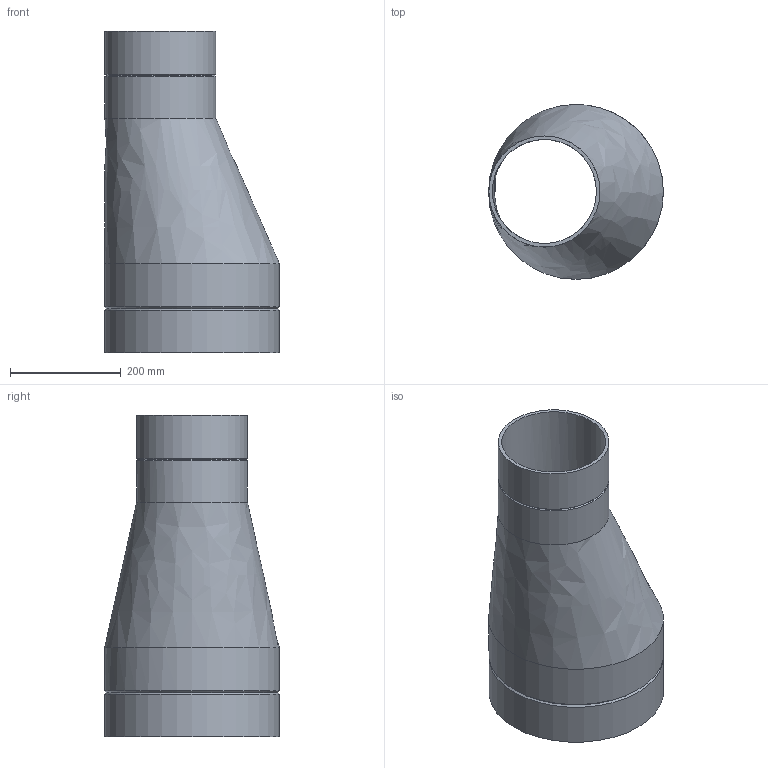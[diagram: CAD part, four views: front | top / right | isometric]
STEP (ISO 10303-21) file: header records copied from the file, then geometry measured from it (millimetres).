
FILE_DESCRIPTION(/* description */ (''),/* implementation_level */ '2;1');
FILE_NAME(/* name */ 'Z:\Geberit\Export\NewStep\372596.stp',/* time_stamp */ '2014-04-02T08:06:57+02:00',/* author */ ('nelson'),/* organization */ (''),/* preprocessor_version */ 'ST-DEVELOPER v15.2',/* originating_system */ 'Autodesk Inventor 2014',/* authorisation */ '');
FILE_SCHEMA (('AUTOMOTIVE_DESIGN { 1 0 10303 214 3 1 1 }'));
Length unit declared in the file: millimetre
Products named in the file (1): 372596
Bounding box: 315 x 315 x 580 mm (x, y, z)
Volume: 3764283.6 mm3; surface area: 941035.3 mm2
Topology: 1 solids, 1 shells, 14 faces, 38 edges, 26 vertices
Faces by surface type: cylinder 6, cone 4, bspline 2, plane 2
Full cylindrical faces by diameter (mm): 187.6 x1, 200 x2, 295.4 x1, 315 x2
Entity records: 417 total; most frequent: CARTESIAN_POINT 93, DIRECTION 66, ORIENTED_EDGE 44, AXIS2_PLACEMENT_3D 33, EDGE_LOOP 26, EDGE_CURVE 22, CIRCLE 20, VERTEX_POINT 20
